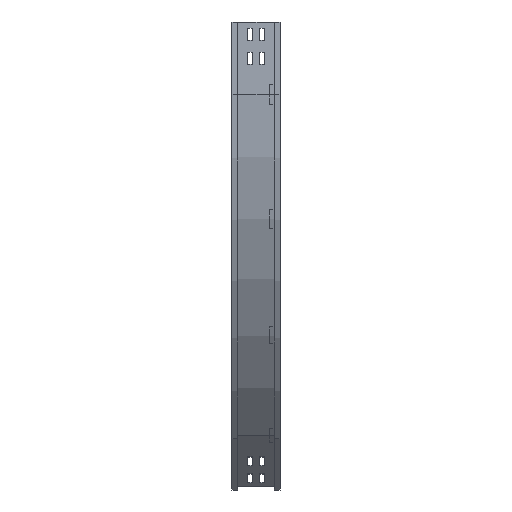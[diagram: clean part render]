
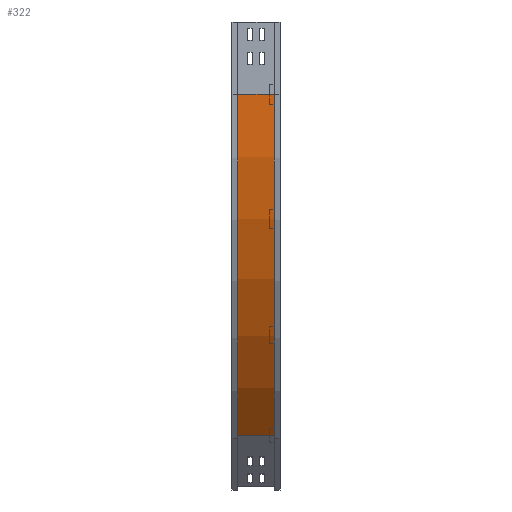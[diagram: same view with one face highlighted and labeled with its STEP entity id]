
A CAD part, left-side view. The second image highlights one B-rep face of the part: STEP entity #322.
In plain terms, the highlighted cylindrical face has radius 1000 mm (diameter 2000 mm), a partial arc.
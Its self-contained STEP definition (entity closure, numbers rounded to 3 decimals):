
#188 = CARTESIAN_POINT ( 'NONE',  ( 301.893, 88., -857.107 ) ) ;
#189 = EDGE_CURVE ( 'NONE', #2301, #3648, #3372, .T. ) ;
#257 = DIRECTION ( 'NONE',  ( 0., -1., 0. ) ) ;
#322 = ADVANCED_FACE ( 'NONE', ( #3821 ), #1456, .T. ) ;
#338 = DIRECTION ( 'NONE',  ( 0., -1., 0. ) ) ;
#397 = CARTESIAN_POINT ( 'NONE',  ( 301.893, 12., -857.107 ) ) ;
#524 = CARTESIAN_POINT ( 'NONE',  ( 9., 12., -150. ) ) ;
#616 = CIRCLE ( 'NONE', #3554, 1000. ) ;
#653 = CARTESIAN_POINT ( 'NONE',  ( 9., 88., -150. ) ) ;
#961 = CARTESIAN_POINT ( 'NONE',  ( 9., 12., -150. ) ) ;
#1023 = DIRECTION ( 'NONE',  ( 0., -1., 0. ) ) ;
#1353 = AXIS2_PLACEMENT_3D ( 'NONE', #1776, #1023, #3078 ) ;
#1448 = ORIENTED_EDGE ( 'NONE', *, *, #2750, .T. ) ;
#1456 = CYLINDRICAL_SURFACE ( 'NONE', #1353, 1000. ) ;
#1738 = VERTEX_POINT ( 'NONE', #188 ) ;
#1776 = CARTESIAN_POINT ( 'NONE',  ( 1009., 0., -150. ) ) ;
#1827 = AXIS2_PLACEMENT_3D ( 'NONE', #3291, #3718, #2676 ) ;
#2015 = EDGE_CURVE ( 'NONE', #2301, #1738, #616, .T. ) ;
#2177 = ORIENTED_EDGE ( 'NONE', *, *, #189, .F. ) ;
#2192 = CARTESIAN_POINT ( 'NONE',  ( 1009., 88., -150. ) ) ;
#2218 = ORIENTED_EDGE ( 'NONE', *, *, #2560, .F. ) ;
#2301 = VERTEX_POINT ( 'NONE', #653 ) ;
#2428 = CARTESIAN_POINT ( 'NONE',  ( 301.893, 12., -857.107 ) ) ;
#2560 = EDGE_CURVE ( 'NONE', #3648, #3470, #2685, .T. ) ;
#2676 = DIRECTION ( 'NONE',  ( -1., 0., 0. ) ) ;
#2685 = CIRCLE ( 'NONE', #1827, 1000. ) ;
#2721 = EDGE_LOOP ( 'NONE', ( #2218, #2177, #3941, #1448 ) ) ;
#2750 = EDGE_CURVE ( 'NONE', #1738, #3470, #3041, .T. ) ;
#2903 = VECTOR ( 'NONE', #338, 1000. ) ;
#3041 = LINE ( 'NONE', #2428, #2903 ) ;
#3078 = DIRECTION ( 'NONE',  ( 0., 0., -1. ) ) ;
#3291 = CARTESIAN_POINT ( 'NONE',  ( 1009., 12., -150. ) ) ;
#3372 = LINE ( 'NONE', #524, #3805 ) ;
#3470 = VERTEX_POINT ( 'NONE', #397 ) ;
#3554 = AXIS2_PLACEMENT_3D ( 'NONE', #2192, #3574, #3950 ) ;
#3574 = DIRECTION ( 'NONE',  ( 0., -1., 0. ) ) ;
#3648 = VERTEX_POINT ( 'NONE', #961 ) ;
#3718 = DIRECTION ( 'NONE',  ( 0., -1., 0. ) ) ;
#3805 = VECTOR ( 'NONE', #257, 1000. ) ;
#3821 = FACE_OUTER_BOUND ( 'NONE', #2721, .T. ) ;
#3941 = ORIENTED_EDGE ( 'NONE', *, *, #2015, .T. ) ;
#3950 = DIRECTION ( 'NONE',  ( -1., 0., 0. ) ) ;
